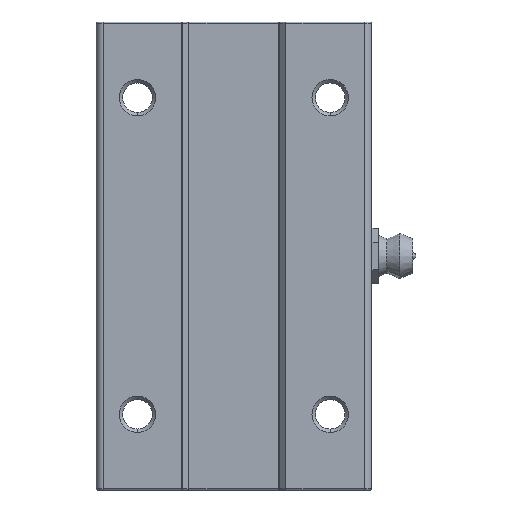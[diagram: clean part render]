
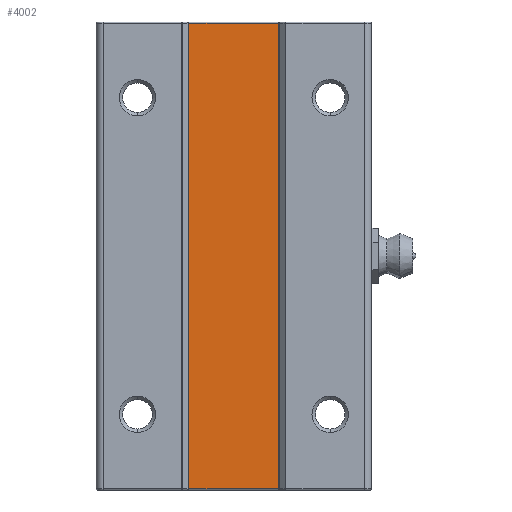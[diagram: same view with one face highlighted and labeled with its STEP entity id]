
A CAD part, front view. The second image highlights one B-rep face of the part: STEP entity #4002.
In plain terms, the highlighted planar face has unit normal (0, -1, 0).
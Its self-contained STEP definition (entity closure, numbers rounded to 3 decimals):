
#328 = CARTESIAN_POINT ( 'NONE',  ( 6.538, -12.55, 68. ) ) ;
#352 = VERTEX_POINT ( 'NONE', #14495 ) ;
#436 = VECTOR ( 'NONE', #1546, 1000. ) ;
#1546 = DIRECTION ( 'NONE',  ( 0., 0., 1. ) ) ;
#1901 = VECTOR ( 'NONE', #14163, 1000. ) ;
#2623 = EDGE_CURVE ( 'NONE', #12971, #5052, #8646, .T. ) ;
#2967 = DIRECTION ( 'NONE',  ( -1., 0., 0. ) ) ;
#4002 = ADVANCED_FACE ( 'NONE', ( #5962 ), #7875, .F. ) ;
#4155 = CARTESIAN_POINT ( 'NONE',  ( -6.6, -12.55, 68. ) ) ;
#5052 = VERTEX_POINT ( 'NONE', #13682 ) ;
#5384 = VECTOR ( 'NONE', #10669, 1000. ) ;
#5799 = CARTESIAN_POINT ( 'NONE',  ( -6.538, -12.55, 67.85 ) ) ;
#5962 = FACE_OUTER_BOUND ( 'NONE', #7430, .T. ) ;
#6232 = ORIENTED_EDGE ( 'NONE', *, *, #9900, .T. ) ;
#7002 = LINE ( 'NONE', #328, #436 ) ;
#7225 = AXIS2_PLACEMENT_3D ( 'NONE', #4155, #10328, #2967 ) ;
#7430 = EDGE_LOOP ( 'NONE', ( #8741, #13826, #6232, #8606 ) ) ;
#7875 = PLANE ( 'NONE',  #7225 ) ;
#8455 = LINE ( 'NONE', #15114, #1901 ) ;
#8606 = ORIENTED_EDGE ( 'NONE', *, *, #14991, .T. ) ;
#8646 = LINE ( 'NONE', #15491, #5384 ) ;
#8741 = ORIENTED_EDGE ( 'NONE', *, *, #2623, .T. ) ;
#8837 = EDGE_CURVE ( 'NONE', #5052, #352, #7002, .T. ) ;
#9410 = CARTESIAN_POINT ( 'NONE',  ( -6.538, -12.55, 0. ) ) ;
#9900 = EDGE_CURVE ( 'NONE', #352, #10020, #8455, .T. ) ;
#9936 = CARTESIAN_POINT ( 'NONE',  ( -6.538, -12.55, 0.15 ) ) ;
#10020 = VERTEX_POINT ( 'NONE', #5799 ) ;
#10328 = DIRECTION ( 'NONE',  ( 0., 1., 0. ) ) ;
#10645 = DIRECTION ( 'NONE',  ( 0., 0., -1. ) ) ;
#10669 = DIRECTION ( 'NONE',  ( 1., 0., 0. ) ) ;
#12971 = VERTEX_POINT ( 'NONE', #9936 ) ;
#13682 = CARTESIAN_POINT ( 'NONE',  ( 6.538, -12.55, 0.15 ) ) ;
#13826 = ORIENTED_EDGE ( 'NONE', *, *, #8837, .T. ) ;
#14163 = DIRECTION ( 'NONE',  ( -1., 0., 0. ) ) ;
#14495 = CARTESIAN_POINT ( 'NONE',  ( 6.538, -12.55, 67.85 ) ) ;
#14991 = EDGE_CURVE ( 'NONE', #10020, #12971, #15603, .T. ) ;
#15114 = CARTESIAN_POINT ( 'NONE',  ( -6.6, -12.55, 67.85 ) ) ;
#15237 = VECTOR ( 'NONE', #10645, 1000. ) ;
#15491 = CARTESIAN_POINT ( 'NONE',  ( 6.6, -12.55, 0.15 ) ) ;
#15603 = LINE ( 'NONE', #9410, #15237 ) ;
